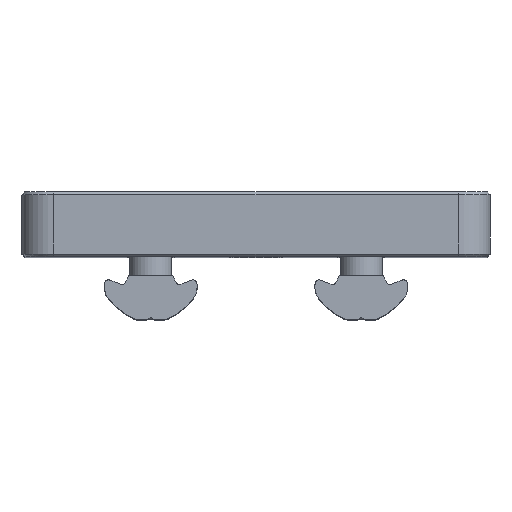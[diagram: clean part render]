
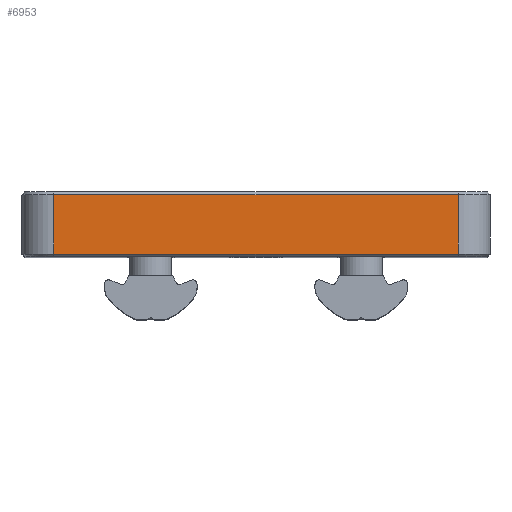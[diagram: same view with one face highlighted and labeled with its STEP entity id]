
A CAD part, top view. The second image highlights one B-rep face of the part: STEP entity #6953.
In plain terms, the highlighted planar face has unit normal (0, 0, 1).
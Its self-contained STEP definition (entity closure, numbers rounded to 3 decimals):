
#528 = VECTOR ( 'NONE', #4726, 1000. ) ;
#868 = LINE ( 'NONE', #2401, #7832 ) ;
#1223 = VECTOR ( 'NONE', #6102, 1000. ) ;
#1343 = VERTEX_POINT ( 'NONE', #7979 ) ;
#1585 = CARTESIAN_POINT ( 'NONE',  ( -44.45, 0., 50.25 ) ) ;
#2021 = ORIENTED_EDGE ( 'NONE', *, *, #3805, .T. ) ;
#2401 = CARTESIAN_POINT ( 'NONE',  ( -44.45, -11.819, 50.25 ) ) ;
#2839 = CARTESIAN_POINT ( 'NONE',  ( 38.45, -0.5, 50.25 ) ) ;
#3462 = EDGE_CURVE ( 'NONE', #4384, #7839, #4909, .T. ) ;
#3805 = EDGE_CURVE ( 'NONE', #1343, #4384, #9683, .T. ) ;
#4090 = PLANE ( 'NONE',  #9754 ) ;
#4384 = VERTEX_POINT ( 'NONE', #2839 ) ;
#4726 = DIRECTION ( 'NONE',  ( -1., 0., 0. ) ) ;
#4909 = LINE ( 'NONE', #8411, #528 ) ;
#5554 = EDGE_LOOP ( 'NONE', ( #10829, #9526, #2021, #10856 ) ) ;
#6102 = DIRECTION ( 'NONE',  ( 0., 1., 0. ) ) ;
#6672 = DIRECTION ( 'NONE',  ( 0., 0., -1. ) ) ;
#6953 = ADVANCED_FACE ( 'NONE', ( #9224 ), #4090, .F. ) ;
#7244 = CARTESIAN_POINT ( 'NONE',  ( -38.45, -0.5, 50.25 ) ) ;
#7366 = LINE ( 'NONE', #9113, #10382 ) ;
#7804 = EDGE_CURVE ( 'NONE', #7839, #10561, #7366, .T. ) ;
#7832 = VECTOR ( 'NONE', #10290, 1000. ) ;
#7839 = VERTEX_POINT ( 'NONE', #7244 ) ;
#7979 = CARTESIAN_POINT ( 'NONE',  ( 38.45, -11.819, 50.25 ) ) ;
#8411 = CARTESIAN_POINT ( 'NONE',  ( -38.45, -0.5, 50.25 ) ) ;
#9113 = CARTESIAN_POINT ( 'NONE',  ( -38.45, 0., 50.25 ) ) ;
#9224 = FACE_OUTER_BOUND ( 'NONE', #5554, .T. ) ;
#9505 = CARTESIAN_POINT ( 'NONE',  ( -38.45, -11.819, 50.25 ) ) ;
#9526 = ORIENTED_EDGE ( 'NONE', *, *, #9536, .T. ) ;
#9536 = EDGE_CURVE ( 'NONE', #10561, #1343, #868, .T. ) ;
#9683 = LINE ( 'NONE', #9735, #1223 ) ;
#9735 = CARTESIAN_POINT ( 'NONE',  ( 38.45, 0., 50.25 ) ) ;
#9754 = AXIS2_PLACEMENT_3D ( 'NONE', #1585, #6672, #10203 ) ;
#10024 = DIRECTION ( 'NONE',  ( 0., -1., 0. ) ) ;
#10203 = DIRECTION ( 'NONE',  ( -1., 0., 0. ) ) ;
#10290 = DIRECTION ( 'NONE',  ( 1., 0., 0. ) ) ;
#10382 = VECTOR ( 'NONE', #10024, 1000. ) ;
#10561 = VERTEX_POINT ( 'NONE', #9505 ) ;
#10829 = ORIENTED_EDGE ( 'NONE', *, *, #7804, .T. ) ;
#10856 = ORIENTED_EDGE ( 'NONE', *, *, #3462, .T. ) ;
